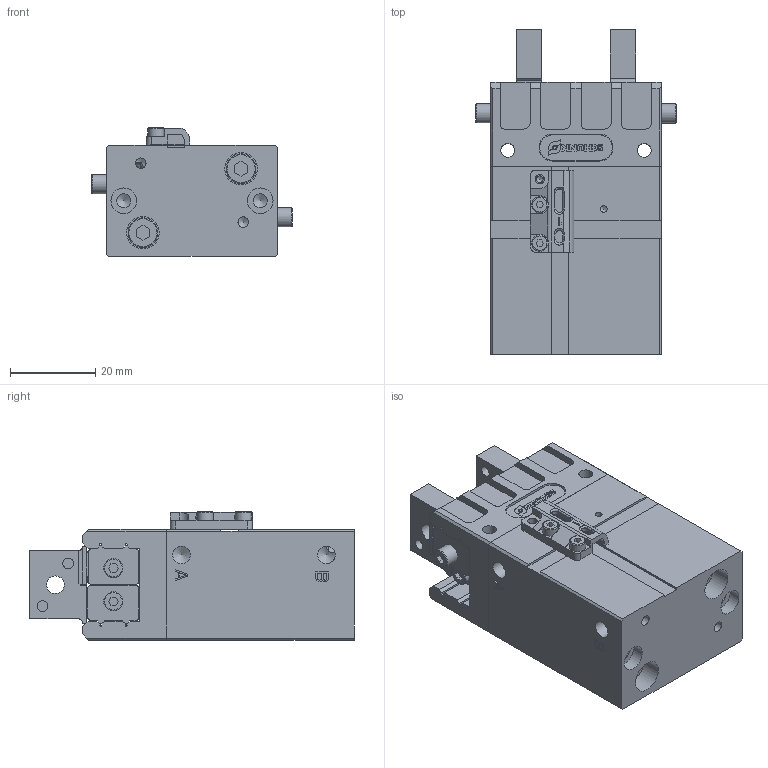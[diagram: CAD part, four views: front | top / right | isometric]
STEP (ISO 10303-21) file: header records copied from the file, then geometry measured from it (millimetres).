
FILE_DESCRIPTION(/* description */ ('STEP AP214'),/* implementation_level */ '2;1');
FILE_NAME(/* name */ 'SCHUNK-0305522 MPG-plus 40-AS_ 0000000',/* time_stamp */ '2026-03-26T11:13:19+01:00',/* author */ ('License CC BY-ND 4.0'),/* organization */ ('CADENAS'),/* preprocessor_version */ 'ST-DEVELOPER v20',/* originating_system */ 'PARTsolutions',/* authorisation */ ' ');
FILE_SCHEMA (('AUTOMOTIVE_DESIGN {1 0 10303 214 3 1 1}'));
Length unit declared in the file: millimetre
Products named in the file (8): SCHUNK-0305522 MPG-plus 40-AS, 0000000; SCHUNK-5519950 Gehaeuse MPG-plus 40 AS; SCHUNK-1007752 Bracket MPG-plus 40; SCHUNK-5518739 Abdeckgehaeuse MPG-plus 40; SCHUNK-5518741 Finger MPG-plus 40; SCHUNK-9962713 Bracket MPG 40; SCHUNK-9965221-Scheibe D4_5; SCHUNK-9954530 Typenschild 6x17x0.3
Assembly tree (14 placements, depth 2):
  SCHUNK-0305522 MPG-plus 40-AS, 0000000
    SCHUNK-5519950 Gehaeuse MPG-plus 40 AS
    SCHUNK-1007752 Bracket MPG-plus 40
    SCHUNK-5518739 Abdeckgehaeuse MPG-plus 40
    SCHUNK-5518741 Finger MPG-plus 40  x2
    SCHUNK-9962713 Bracket MPG 40  x4
    SCHUNK-9965221-Scheibe D4_5  x4
    SCHUNK-9954530 Typenschild 6x17x0.3
Bounding box: 47 x 76.05 x 30.1 mm (x, y, z)
Volume: 60490.5 mm3; surface area: 24104.2 mm2
Topology: 14 solids, 14 shells, 659 faces, 1745 edges, 1151 vertices
Faces by surface type: plane 461, cylinder 161, cone 25, torus 12
Full cylindrical faces by diameter (mm): 0.792 x1, 1.567 x4, 2 x2, 2.013 x8, 2.2 x3, 2.459 x5, 2.5 x4, 3.242 x6, 3.8 x2, 4.134 x4, 4.2 x2, 4.5 x4, 6 x4, 7 x2, 7.6 x2
Entity records: 18275 total; most frequent: CARTESIAN_POINT 2809, DIRECTION 2592, ORIENTED_EDGE 2570, EDGE_CURVE 1285, LINE 1012, VECTOR 1012, VERTEX_POINT 900, AXIS2_PLACEMENT_3D 790
